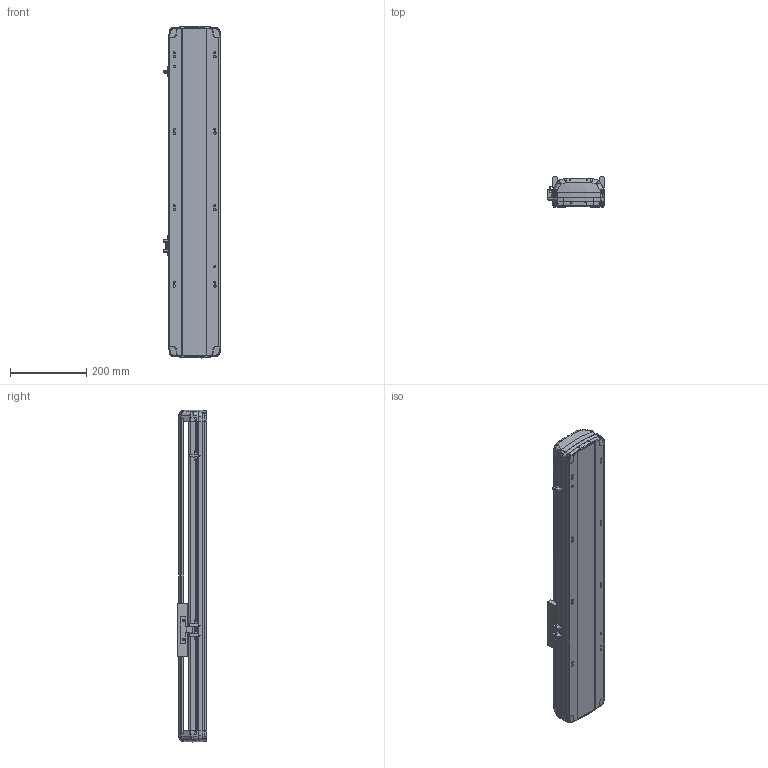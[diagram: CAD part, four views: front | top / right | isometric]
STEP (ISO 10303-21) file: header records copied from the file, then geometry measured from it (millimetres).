
FILE_DESCRIPTION (( 'STEP AP214' ), '1' );
FILE_NAME ('RTH14-XX-450-B-M20B-C4.STEP', '2025-10-24T08:36:11', ( 'Microsoft' ), ( 'Microsoft' ), 'SwSTEP 2.0', 'SolidWorks 2018', '' );
FILE_SCHEMA (( 'AUTOMOTIVE_DESIGN' ));
Length unit declared in the file: millimetre
Products named in the file (7): N_RTH14-R-004-SFSR16賑釱^RTH14-XX-XX-B-M20B-C4; N_RTH14-B-007B奻裔^RTH14-XX-XX-B-M20B-C4; RTH14-XX-450-B-M20B-C4; N_RTH13-L-012感应片（外置）^RTH14-XX-XX-B-M20B-C4; N_RTH14-B-011PB菁釱^RTH14-XX-XX-B-M20B-C4; N_RTH14-GY-001P^RTH14-XX-XX-B-M20B-C4; N_OMRON EE-SX672 传感器^RTH14-XX-XX-B-M20B-C4
Assembly tree (9 placements, depth 2):
  RTH14-XX-450-B-M20B-C4
    N_RTH14-B-011PB菁釱^RTH14-XX-XX-B-M20B-C4
    N_RTH14-B-007B奻裔^RTH14-XX-XX-B-M20B-C4
    N_RTH13-L-012感应片（外置）^RTH14-XX-XX-B-M20B-C4
    N_OMRON EE-SX672 传感器^RTH14-XX-XX-B-M20B-C4  x3
    N_RTH14-R-004-SFSR16賑釱^RTH14-XX-XX-B-M20B-C4
    N_RTH14-GY-001P^RTH14-XX-XX-B-M20B-C4  x2
Bounding box: 148.5 x 78.03 x 868.74 mm (x, y, z)
Volume: 3643833.3 mm3; surface area: 845531.2 mm2
Topology: 9 solids, 9 shells, 1900 faces, 5350 edges, 3482 vertices
Faces by surface type: plane 975, bspline 450, cylinder 411, cone 56, torus 8
Entity records: 45930 total; most frequent: CARTESIAN_POINT 20702, ORIENTED_EDGE 5716, DIRECTION 4161, EDGE_CURVE 2858, VERTEX_POINT 1868, LINE 1617, VECTOR 1617, AXIS2_PLACEMENT_3D 1272
